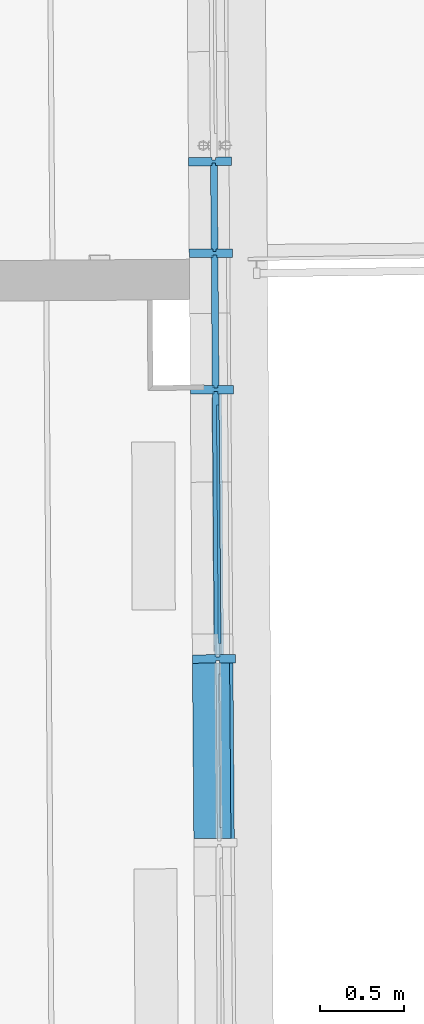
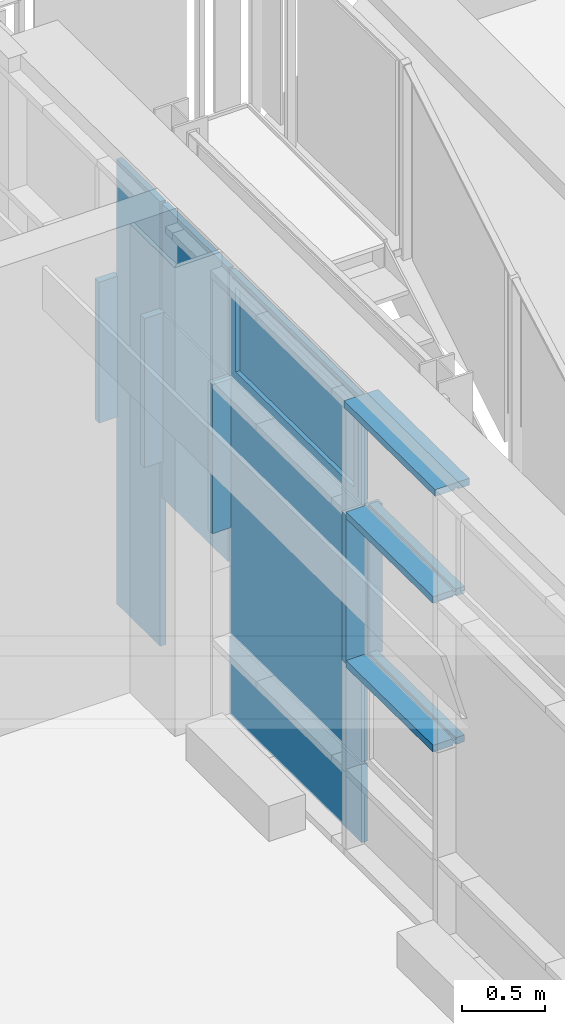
# One storey, part 105 of 158: 14 building element parts, 1 element without a shape of its own.
"""IFC2X3 building model written with IfcOpenShell, lengths in metres."""

from ifc_helpers import new_model, entity, si_unit, converted_unit, derived_unit, money_unit, direction, frame, origin_with_axes, place, context, subcontext, project, spatial, faceted_brep, material, type_object, element, aggregate, save


model = new_model("IFC2X3")

# Units and contexts
model_context = context("Model", 3, precision=1e-05, world=origin_with_axes(), true_north=direction((0.0, 1.0)))
body_context = subcontext(model_context, "Body", "Model", "MODEL_VIEW")
ifc_project = project(units=[si_unit("LENGTHUNIT", "METRE"), si_unit("AREAUNIT", "SQUARE_METRE"), si_unit("VOLUMEUNIT", "CUBIC_METRE"), converted_unit("PLANEANGLEUNIT", "DEGREE", entity("IfcPlaneAngleMeasure", 0.0174532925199), si_unit("PLANEANGLEUNIT", "RADIAN"), dimensions=[0, 0, 0, 0, 0, 0, 0]), money_unit("EUR"), converted_unit("TIMEUNIT", "Year", entity("IfcTimeMeasure", 31556926.0), si_unit("TIMEUNIT", "SECOND"), dimensions=[0, 0, 1, 0, 0, 0, 0]), si_unit("MASSUNIT", "GRAM", prefix="KILO"), si_unit("THERMODYNAMICTEMPERATUREUNIT", "DEGREE_CELSIUS"), si_unit("LUMINOUSINTENSITYUNIT", "LUMEN"), si_unit("ENERGYUNIT", "JOULE", prefix="MEGA"), derived_unit("THERMALCONDUCTANCEUNIT", [(si_unit("POWERUNIT", "WATT"), 1), (si_unit("LENGTHUNIT", "METRE"), -1), (si_unit("THERMODYNAMICTEMPERATUREUNIT", "KELVIN"), -1)]), derived_unit("SPECIFICHEATCAPACITYUNIT", [(si_unit("ENERGYUNIT", "JOULE"), 1), (si_unit("MASSUNIT", "GRAM", prefix="KILO"), -1), (si_unit("THERMODYNAMICTEMPERATUREUNIT", "KELVIN"), -1)]), derived_unit("MASSDENSITYUNIT", [(si_unit("MASSUNIT", "GRAM", prefix="KILO"), 1), (si_unit("VOLUMEUNIT", "CUBIC_METRE"), -1)])], contexts=[model_context])

# Site, building, storey
site_placement = place(None, origin_with_axes())
site = spatial("IfcSite", under=ifc_project, at=site_placement, Name="Gelände", CompositionType="ELEMENT")
building_placement = place(site_placement, origin_with_axes())
building = spatial("IfcBuilding", under=site, at=building_placement, Name="Gebäude", CompositionType="ELEMENT")
storey_placement = place(building_placement, origin_with_axes())
storey = spatial("IfcBuildingStorey", under=building, at=storey_placement, Name="ERDGESCHOSS", CompositionType="ELEMENT", Elevation=0.0)

# Proxy, building element parts
building_element_proxy_type = type_object("IfcBuildingElementProxyType", Name="Fassadentyp", PredefinedType="NOTDEFINED")
proxy_placement = place(storey_placement, frame((-15.5457352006, 40.9565245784, 1.34043905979), z_axis=(0.0, 0.0, 1.0), x_axis=(1.0, 0.0, 0.0)))
proxy = element("IfcBuildingElementProxy", 1, at=proxy_placement, inside=storey, type_object=building_element_proxy_type, Name="Fassade-002")
ifc_material_1 = material(Name="45_Glas, Normalglas")
building_element_part_1_placement = place(proxy_placement, origin_with_axes())
building_element_part_1 = element("IfcBuildingElementPart", 2, at=building_element_part_1_placement, material=ifc_material_1, Name="45_Glas, Normalglas", context=body_context, shape_type="Brep", body=[
    faceted_brep([(-0.014652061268, -0.687379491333, 0.609999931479), (0.0253467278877, -0.687068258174, 0.609999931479), (0.0242787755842, -0.549818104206, 0.609999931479), (-0.0157200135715, -0.550129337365, 0.609999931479), (-0.0146520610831, -0.687379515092, 0.0349999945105), (0.0253467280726, -0.687068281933, 0.0349999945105), (0.0242787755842, -0.549818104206, 0.0349999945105), (0.0172760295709, 0.350154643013, 0.0349999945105), (0.0130960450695, 0.887354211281, 0.0349999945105), (0.0130960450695, 0.887354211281, 0.609999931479), (0.0172760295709, 0.350154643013, 0.609999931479), (-0.0227227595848, 0.349843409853, 0.609999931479), (-0.0269027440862, 0.887042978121, 0.609999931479), (-0.0269027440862, 0.887042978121, 0.0349999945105), (-0.0227227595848, 0.349843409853, 0.0349999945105), (-0.0157200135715, -0.550129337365, 0.0349999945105)], [[[0, 1, 2, 3]], [[4, 5, 1, 0]], [[1, 5, 6, 7, 8, 9, 10, 2]], [[3, 2, 10, 11]], [[0, 3, 11, 12, 13, 14, 15, 4]], [[15, 6, 5, 4]], [[14, 7, 6, 15]], [[13, 8, 7, 14]], [[12, 9, 8, 13]], [[11, 10, 9, 12]]]),
])
building_element_part_2_placement = place(proxy_placement, origin_with_axes())
building_element_part_2 = element("IfcBuildingElementPart", 3, at=building_element_part_2_placement, material=ifc_material_1, Name="45_Glas, Normalglas", context=body_context, shape_type="Brep", body=[
    faceted_brep([(-0.0146520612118, -0.687379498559, 2.50999994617), (0.0253467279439, -0.6870682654, 2.50999994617), (0.0242787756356, -0.54981811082, 2.50999994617), (-0.0157200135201, -0.550129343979, 2.50999994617), (-0.0146520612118, -0.687379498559, 1.4231093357), (0.0253467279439, -0.6870682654, 1.4231093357), (0.0253467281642, -0.687068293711, 1.41999994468), (0.0253467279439, -0.6870682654, 0.629999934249), (0.0242787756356, -0.54981811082, 0.629999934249), (0.0172760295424, 0.350154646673, 0.629999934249), (0.0130960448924, 0.88735423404, 0.629999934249), (0.0130960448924, 0.88735423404, 1.13681093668), (0.0130960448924, 0.88735423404, 1.41999994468), (0.0130960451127, 0.887354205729, 2.50999994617), (0.0172760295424, 0.350154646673, 2.50999994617), (-0.0227227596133, 0.349843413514, 2.50999994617), (-0.026902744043, 0.88704297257, 2.50999994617), (-0.0269027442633, 0.887043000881, 1.41999994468), (-0.0269027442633, 0.887043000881, 1.13681093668), (-0.0269027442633, 0.887043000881, 0.629999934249), (-0.0227227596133, 0.349843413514, 0.629999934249), (-0.0157200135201, -0.550129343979, 0.629999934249), (-0.0146520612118, -0.687379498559, 0.629999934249), (-0.0146520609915, -0.68737952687, 1.41999994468)], [[[0, 1, 2, 3]], [[4, 5, 1, 0]], [[1, 5, 6, 7, 8, 9, 10, 11, 12, 13, 14, 2]], [[3, 2, 14, 15]], [[0, 3, 15, 16, 17, 18, 19, 20, 21, 22, 23, 4]], [[23, 6, 5, 4]], [[22, 7, 6, 23]], [[21, 8, 7, 22]], [[20, 9, 8, 21]], [[19, 10, 9, 20]], [[18, 11, 10, 19]], [[17, 12, 11, 18]], [[16, 13, 12, 17]], [[15, 14, 13, 16]]]),
])
building_element_part_3_placement = place(proxy_placement, origin_with_axes())
building_element_part_3 = element("IfcBuildingElementPart", 4, at=building_element_part_3_placement, material=ifc_material_1, Name="45_Glas, Normalglas", context=body_context, shape_type="Brep", body=[
    faceted_brep([(-0.0270583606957, 0.907042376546, 2.50999995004), (0.01294042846, 0.907353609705, 2.50999995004), (0.00949520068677, 1.35012435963, 2.50999995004), (-0.0305035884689, 1.34981312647, 2.50999995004), (-0.0270583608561, 0.907042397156, 1.41999994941), (0.0129404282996, 0.907353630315, 1.41999994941), (0.01294042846, 0.907353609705, 1.1468109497), (0.00949520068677, 1.35012435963, 1.1468109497), (0.00680440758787, 1.69593733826, 1.14681092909), (0.0068044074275, 1.69593735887, 1.41999994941), (0.00680440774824, 1.69593731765, 2.50999995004), (-0.0331943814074, 1.69562608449, 2.50999995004), (-0.0331943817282, 1.69562612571, 1.41999994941), (-0.0331943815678, 1.6956261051, 1.14681092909), (-0.0305035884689, 1.34981312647, 1.1468109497), (-0.0270583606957, 0.907042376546, 1.1468109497)], [[[0, 1, 2, 3]], [[4, 5, 1, 0]], [[1, 5, 6, 7, 8, 9, 10, 2]], [[3, 2, 10, 11]], [[0, 3, 11, 12, 13, 14, 15, 4]], [[15, 6, 5, 4]], [[14, 7, 6, 15]], [[13, 8, 7, 14]], [[12, 9, 8, 13]], [[11, 10, 9, 12]]]),
])
building_element_part_4_placement = place(proxy_placement, origin_with_axes())
building_element_part_4 = element("IfcBuildingElementPart", 5, at=building_element_part_4_placement, material=ifc_material_1, Name="45_Glas, Normalglas", context=body_context, shape_type="Brep", body=[
    faceted_brep([(-0.0333499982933, 1.71562551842, 3.31499986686), (0.00664879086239, 1.71593675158, 3.31499986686), (0.00257702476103, 2.23922840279, 3.31499986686), (-0.0374217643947, 2.23891716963, 3.31499986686), (-0.0333499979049, 1.71562546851, 2.51999993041), (0.0066487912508, 1.71593670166, 2.51999993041), (0.00664879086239, 1.71593675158, 1.4199999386), (0.00664879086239, 1.71593675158, 1.13681091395), (0.00664879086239, 1.71593675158, 0.619999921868), (0.00664879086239, 1.71593675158, 0.0350000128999), (0.00257702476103, 2.23922840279, 0.0350000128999), (0.00257702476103, 2.23922840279, 0.619999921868), (0.00257702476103, 2.23922840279, 1.4199999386), (0.00257702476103, 2.23922840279, 2.45991869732), (0.00257702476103, 2.23922840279, 2.51999993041), (-0.0374217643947, 2.23891716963, 2.51999993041), (-0.0374217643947, 2.23891716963, 2.45991869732), (-0.0374217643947, 2.23891716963, 1.4199999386), (-0.0374217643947, 2.23891716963, 0.619999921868), (-0.0374217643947, 2.23891716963, 0.0350000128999), (-0.0333499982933, 1.71562551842, 0.0350000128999), (-0.0333499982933, 1.71562551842, 0.619999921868), (-0.0333499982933, 1.71562551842, 1.13681091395), (-0.0333499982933, 1.71562551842, 1.4199999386)], [[[0, 1, 2, 3]], [[4, 5, 1, 0]], [[1, 5, 6, 7, 8, 9, 10, 11, 12, 13, 14, 2]], [[3, 2, 14, 15]], [[0, 3, 15, 16, 17, 18, 19, 20, 21, 22, 23, 4]], [[23, 6, 5, 4]], [[22, 7, 6, 23]], [[21, 8, 7, 22]], [[20, 9, 8, 21]], [[19, 10, 9, 20]], [[18, 11, 10, 19]], [[17, 12, 11, 18]], [[16, 13, 12, 17]], [[15, 14, 13, 16]]]),
])
ifc_material_2 = material(Name="53_Metall, Aluminium")
building_element_part_5_placement = place(proxy_placement, origin_with_axes())
building_element_part_5 = element("IfcBuildingElementPart", 6, at=building_element_part_5_placement, material=ifc_material_2, Name="53_Metall, Aluminium", context=body_context, shape_type="Brep", body=[
    faceted_brep([(0.0232124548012, 0.872432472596, 2.54499994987), (0.0282123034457, 0.87247137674, 2.54499994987), (0.0402295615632, -0.671952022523, 2.54499994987), (0.0352297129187, -0.671990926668, 2.54499994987), (0.0235625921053, 0.827433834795, 2.58999994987), (0.0285624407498, 0.82747273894, 2.58999994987), (0.0398794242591, -0.626953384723, 2.58999994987), (0.0348795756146, -0.626992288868, 2.58999994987)], [[[0, 1, 2, 3]], [[4, 5, 1, 0]], [[1, 5, 6, 2]], [[3, 2, 6, 7]], [[0, 3, 7, 4]], [[7, 6, 5, 4]]]),
    faceted_brep([(0.0352297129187, -0.671990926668, 2.54499994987), (0.0402295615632, -0.671952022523, 2.54499994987), (0.0402295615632, -0.671952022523, 3.29999987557), (0.0352297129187, -0.671990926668, 3.29999987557), (0.0348795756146, -0.626992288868, 2.58999994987), (0.0398794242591, -0.626953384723, 2.58999994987), (0.0398794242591, -0.626953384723, 3.25499987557), (0.0348795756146, -0.626992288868, 3.25499987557)], [[[0, 1, 2, 3]], [[4, 5, 1, 0]], [[1, 5, 6, 2]], [[3, 2, 6, 7]], [[0, 3, 7, 4]], [[7, 6, 5, 4]]]),
    faceted_brep([(0.0232124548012, 0.872432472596, 3.29999987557), (0.0282123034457, 0.87247137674, 3.29999987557), (0.0285624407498, 0.82747273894, 3.25499987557), (0.0235625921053, 0.827433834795, 3.25499987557), (0.0352297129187, -0.671990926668, 3.29999987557), (0.0402295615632, -0.671952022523, 3.29999987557), (0.0398794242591, -0.626953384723, 3.25499987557), (0.0348795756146, -0.626992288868, 3.25499987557)], [[[0, 1, 2, 3]], [[4, 5, 1, 0]], [[1, 5, 6, 2]], [[3, 2, 6, 7]], [[0, 3, 7, 4]], [[7, 6, 5, 4]]]),
    faceted_brep([(0.0232124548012, 0.872432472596, 2.54499994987), (0.0282123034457, 0.87247137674, 2.54499994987), (0.0285624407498, 0.82747273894, 2.58999994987), (0.0235625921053, 0.827433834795, 2.58999994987), (0.0232124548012, 0.872432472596, 3.29999987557), (0.0282123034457, 0.87247137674, 3.29999987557), (0.0285624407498, 0.82747273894, 3.25499987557), (0.0235625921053, 0.827433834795, 3.25499987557)], [[[0, 1, 2, 3]], [[4, 5, 1, 0]], [[1, 5, 6, 2]], [[3, 2, 6, 7]], [[0, 3, 7, 4]], [[7, 6, 5, 4]]]),
    faceted_brep([(-0.0267860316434, 0.872043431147, 2.54499994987), (0.0232124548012, 0.872432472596, 2.54499994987), (0.0352297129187, -0.671990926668, 2.54499994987), (-0.0147687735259, -0.672379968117, 2.54499994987), (-0.0266304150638, 0.852044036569, 2.56499994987), (0.0233680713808, 0.852433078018, 2.56499994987), (0.0350740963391, -0.65199153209, 2.56499994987), (-0.0149243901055, -0.652380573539, 2.56499994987)], [[[0, 1, 2, 3]], [[4, 5, 1, 0]], [[1, 5, 6, 2]], [[3, 2, 6, 7]], [[0, 3, 7, 4]], [[7, 6, 5, 4]]]),
    faceted_brep([(-0.0147687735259, -0.672379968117, 2.54499994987), (0.0352297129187, -0.671990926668, 2.54499994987), (0.0352297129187, -0.671990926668, 3.29999987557), (-0.0147687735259, -0.672379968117, 3.29999987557), (-0.0149243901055, -0.652380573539, 2.56499994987), (0.0350740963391, -0.65199153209, 2.56499994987), (0.0350740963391, -0.65199153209, 3.27999987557), (-0.0149243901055, -0.652380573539, 3.27999987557)], [[[0, 1, 2, 3]], [[4, 5, 1, 0]], [[1, 5, 6, 2]], [[3, 2, 6, 7]], [[0, 3, 7, 4]], [[7, 6, 5, 4]]]),
    faceted_brep([(-0.0267860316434, 0.872043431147, 3.29999987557), (0.0232124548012, 0.872432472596, 3.29999987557), (0.0233680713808, 0.852433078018, 3.27999987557), (-0.0266304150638, 0.852044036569, 3.27999987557), (-0.0147687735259, -0.672379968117, 3.29999987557), (0.0352297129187, -0.671990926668, 3.29999987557), (0.0350740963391, -0.65199153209, 3.27999987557), (-0.0149243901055, -0.652380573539, 3.27999987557)], [[[0, 1, 2, 3]], [[4, 5, 1, 0]], [[1, 5, 6, 2]], [[3, 2, 6, 7]], [[0, 3, 7, 4]], [[7, 6, 5, 4]]]),
    faceted_brep([(-0.0267860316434, 0.872043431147, 2.54499994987), (0.0232124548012, 0.872432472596, 2.54499994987), (0.0233680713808, 0.852433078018, 2.56499994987), (-0.0266304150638, 0.852044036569, 2.56499994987), (-0.0267860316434, 0.872043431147, 3.29999987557), (0.0232124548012, 0.872432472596, 3.29999987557), (0.0233680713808, 0.852433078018, 3.27999987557), (-0.0266304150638, 0.852044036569, 3.27999987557)], [[[0, 1, 2, 3]], [[4, 5, 1, 0]], [[1, 5, 6, 2]], [[3, 2, 6, 7]], [[0, 3, 7, 4]], [[7, 6, 5, 4]]]),
    faceted_brep([(-0.0269027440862, 0.887042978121, 2.52999994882), (0.0130960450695, 0.887354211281, 2.52999994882), (0.0253467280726, -0.687068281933, 2.52999994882), (-0.0146520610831, -0.687379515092, 2.52999994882), (-0.0267860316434, 0.872043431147, 2.54499994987), (0.0132127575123, 0.872354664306, 2.54499994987), (0.0252300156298, -0.672068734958, 2.54499994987), (-0.0147687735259, -0.672379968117, 2.54499994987)], [[[0, 1, 2, 3]], [[4, 5, 1, 0]], [[1, 5, 6, 2]], [[3, 2, 6, 7]], [[0, 3, 7, 4]], [[7, 6, 5, 4]]]),
    faceted_brep([(-0.0146520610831, -0.687379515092, 2.52999994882), (0.0253467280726, -0.687068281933, 2.52999994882), (0.0253467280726, -0.687068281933, 3.31499987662), (-0.0146520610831, -0.687379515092, 3.31499987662), (-0.0147687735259, -0.672379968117, 2.54499994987), (0.0252300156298, -0.672068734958, 2.54499994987), (0.0252300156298, -0.672068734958, 3.29999987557), (-0.0147687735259, -0.672379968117, 3.29999987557)], [[[0, 1, 2, 3]], [[4, 5, 1, 0]], [[1, 5, 6, 2]], [[3, 2, 6, 7]], [[0, 3, 7, 4]], [[7, 6, 5, 4]]]),
    faceted_brep([(-0.0146520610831, -0.687379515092, 3.31499987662), (0.0253467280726, -0.687068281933, 3.31499987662), (0.0130960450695, 0.887354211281, 3.31499987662), (-0.0269027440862, 0.887042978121, 3.31499987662), (-0.0147687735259, -0.672379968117, 3.29999987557), (0.0252300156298, -0.672068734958, 3.29999987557), (0.0132127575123, 0.872354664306, 3.29999987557), (-0.0267860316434, 0.872043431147, 3.29999987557)], [[[0, 1, 2, 3]], [[4, 5, 1, 0]], [[1, 5, 6, 2]], [[3, 2, 6, 7]], [[0, 3, 7, 4]], [[7, 6, 5, 4]]]),
    faceted_brep([(-0.0269027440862, 0.887042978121, 3.31499987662), (0.0130960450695, 0.887354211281, 3.31499987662), (0.0130960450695, 0.887354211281, 2.52999994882), (-0.0269027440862, 0.887042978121, 2.52999994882), (-0.0267860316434, 0.872043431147, 3.29999987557), (0.0132127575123, 0.872354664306, 3.29999987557), (0.0132127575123, 0.872354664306, 2.54499994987), (-0.0267860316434, 0.872043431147, 2.54499994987)], [[[0, 1, 2, 3]], [[4, 5, 1, 0]], [[1, 5, 6, 2]], [[3, 2, 6, 7]], [[0, 3, 7, 4]], [[7, 6, 5, 4]]]),
    faceted_brep([(0.0237182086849, 0.807434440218, 2.60999994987), (0.0237182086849, 0.807434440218, 3.23499987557), (-0.0312801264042, 0.807006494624, 3.23499987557), (-0.0312801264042, 0.807006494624, 2.60999994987), (0.0233680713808, 0.852433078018, 2.56499994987), (0.0233680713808, 0.852433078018, 3.27999987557), (-0.0316302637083, 0.852005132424, 3.27999987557), (-0.0316302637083, 0.852005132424, 2.56499994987)], [[[0, 1, 2, 3]], [[0, 4, 5, 1]], [[1, 5, 6, 2]], [[3, 2, 6, 7]], [[4, 0, 3, 7]], [[5, 4, 7, 6]]]),
    faceted_brep([(0.0350740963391, -0.65199153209, 2.56499994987), (0.0350740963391, -0.65199153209, 3.27999987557), (-0.01992423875, -0.652419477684, 3.27999987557), (-0.01992423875, -0.652419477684, 2.56499994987), (0.034723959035, -0.60699289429, 2.60999994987), (0.034723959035, -0.60699289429, 3.23499987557), (-0.020274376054, -0.607420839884, 3.23499987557), (-0.020274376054, -0.607420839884, 2.60999994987)], [[[0, 1, 2, 3]], [[0, 4, 5, 1]], [[1, 5, 6, 2]], [[3, 2, 6, 7]], [[4, 0, 3, 7]], [[5, 4, 7, 6]]]),
    faceted_brep([(0.0350740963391, -0.65199153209, 2.56499994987), (0.034723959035, -0.60699289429, 2.60999994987), (-0.020274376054, -0.607420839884, 2.60999994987), (-0.01992423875, -0.652419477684, 2.56499994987), (0.0233680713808, 0.852433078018, 2.56499994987), (0.0237182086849, 0.807434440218, 2.60999994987), (-0.0312801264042, 0.807006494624, 2.60999994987), (-0.0316302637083, 0.852005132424, 2.56499994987)], [[[0, 1, 2, 3]], [[0, 4, 5, 1]], [[1, 5, 6, 2]], [[3, 2, 6, 7]], [[4, 0, 3, 7]], [[5, 4, 7, 6]]]),
    faceted_brep([(0.0233680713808, 0.852433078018, 3.27999987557), (0.0237182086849, 0.807434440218, 3.23499987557), (-0.0312801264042, 0.807006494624, 3.23499987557), (-0.0316302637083, 0.852005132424, 3.27999987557), (0.0350740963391, -0.65199153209, 3.27999987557), (0.034723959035, -0.60699289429, 3.23499987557), (-0.020274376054, -0.607420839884, 3.23499987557), (-0.01992423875, -0.652419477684, 3.27999987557)], [[[0, 1, 2, 3]], [[0, 4, 5, 1]], [[1, 5, 6, 2]], [[3, 2, 6, 7]], [[4, 0, 3, 7]], [[5, 4, 7, 6]]]),
])
building_element_part_6_placement = place(proxy_placement, origin_with_axes())
building_element_part_6 = element("IfcBuildingElementPart", 7, at=building_element_part_6_placement, material=ifc_material_1, Name="45_Glas, Normalglas", context=body_context, shape_type="Brep", body=[
    faceted_brep([(0.013718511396, 0.807356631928, 2.60999994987), (0.0247242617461, -0.60707070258, 2.60999994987), (0.00872474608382, -0.607195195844, 2.60999994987), (-0.00228100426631, 0.807232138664, 2.60999994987), (0.013718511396, 0.807356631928, 3.23499987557), (0.0247242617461, -0.60707070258, 3.23499987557), (0.00872474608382, -0.607195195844, 3.23499987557), (-0.00228100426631, 0.807232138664, 3.23499987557)], [[[0, 1, 2, 3]], [[0, 4, 5, 1]], [[1, 5, 6, 2]], [[3, 2, 6, 7]], [[4, 0, 3, 7]], [[5, 4, 7, 6]]]),
])
building_element_part_7_placement = place(proxy_placement, origin_with_axes())
building_element_part_7 = element("IfcBuildingElementPart", 8, at=building_element_part_7_placement, material=ifc_material_1, Name="45_Glas, Normalglas", context=body_context, shape_type="Brep", body=[
    faceted_brep([(-0.0270583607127, 0.907042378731, 3.31499988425), (0.012940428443, 0.90735361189, 3.31499988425), (0.00949520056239, 1.35012437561, 3.31499988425), (-0.0305035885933, 1.34981314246, 3.31499988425), (-0.0270583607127, 0.907042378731, 2.52999994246), (0.012940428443, 0.90735361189, 2.52999994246), (0.00949520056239, 1.35012437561, 2.52999994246), (0.00680440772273, 1.69593732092, 2.52999994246), (0.00680440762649, 1.69593733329, 3.31499988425), (-0.0331943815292, 1.69562610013, 3.31499988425), (-0.033194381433, 1.69562608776, 2.52999994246), (-0.0305035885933, 1.34981314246, 2.52999994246)], [[[0, 1, 2, 3]], [[4, 5, 1, 0]], [[1, 5, 6, 7, 8, 2]], [[3, 2, 8, 9]], [[0, 3, 9, 10, 11, 4]], [[11, 6, 5, 4]], [[10, 7, 6, 11]], [[9, 8, 7, 10]]]),
])
building_element_part_8_placement = place(proxy_placement, origin_with_axes())
building_element_part_8 = element("IfcBuildingElementPart", 9, at=building_element_part_8_placement, material=ifc_material_2, Name="53_Metall, Aluminium", context=body_context, shape_type="Brep", body=[
    faceted_brep([(-0.016903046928, 0.887120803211, 2.51999994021), (0.00309634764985, 0.88727641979, 2.51999994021), (0.00321306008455, 0.872276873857, 2.51999994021), (0.0982101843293, 0.87301605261, 2.51999994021), (0.0978211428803, 0.923014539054, 2.51999994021), (0.00282401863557, 0.922275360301, 2.51999994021), (0.00294073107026, 0.907275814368, 2.51999994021), (-0.0170586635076, 0.907120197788, 2.51999994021), (-0.0171753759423, 0.922119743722, 2.51999994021), (-0.157171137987, 0.921030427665, 2.51999994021), (-0.156782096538, 0.87103194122, 2.51999994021), (-0.0167863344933, 0.872121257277, 2.51999994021), (-0.016903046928, 0.887120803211, 1.41999994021), (0.00309634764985, 0.88727641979, 1.41999994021), (0.00321306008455, 0.872276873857, 1.41999994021), (0.0982101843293, 0.87301605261, 1.41999994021), (0.0978211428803, 0.923014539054, 1.41999994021), (0.00282401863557, 0.922275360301, 1.41999994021), (0.00294073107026, 0.907275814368, 1.41999994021), (-0.0170586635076, 0.907120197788, 1.41999994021), (-0.0171753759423, 0.922119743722, 1.41999994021), (-0.157171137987, 0.921030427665, 1.41999994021), (-0.156782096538, 0.87103194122, 1.41999994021), (-0.0167863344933, 0.872121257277, 1.41999994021)], [[[0, 1, 2, 3, 4, 5, 6, 7, 8, 9, 10, 11]], [[0, 12, 13, 1]], [[1, 13, 14, 2]], [[14, 15, 3, 2]], [[3, 15, 16, 4]], [[17, 5, 4, 16]], [[5, 17, 18, 6]], [[7, 6, 18, 19]], [[8, 7, 19, 20]], [[8, 20, 21, 9]], [[9, 21, 22, 10]], [[11, 10, 22, 23]], [[11, 23, 12, 0]], [[13, 12, 23, 22, 21, 20, 19, 18, 17, 16, 15, 14]]]),
])
building_element_part_9_placement = place(proxy_placement, origin_with_axes())
building_element_part_9 = element("IfcBuildingElementPart", 10, at=building_element_part_9_placement, material=ifc_material_2, Name="53_Metall, Aluminium", context=body_context, shape_type="Brep", body=[
    faceted_brep([(-0.0274220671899, 2.23899498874, 2.45991868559), (-0.00742267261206, 2.23915060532, 2.45991868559), (-0.00730596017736, 2.22415105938, 2.45991868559), (0.0876911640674, 2.22489023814, 2.45991868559), (0.0873021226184, 2.27488872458, 2.45991868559), (-0.00769500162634, 2.27414954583, 2.45991868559), (-0.00757828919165, 2.25914999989, 2.45991868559), (-0.0275776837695, 2.25899438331, 2.45991868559), (-0.0276943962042, 2.27399392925, 2.45991868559), (-0.167690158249, 2.27290461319, 2.45991868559), (-0.1673011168, 2.22290612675, 2.45991868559), (-0.0273053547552, 2.2239954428, 2.45991868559), (-0.0274220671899, 2.23899498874, 1.41999993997), (-0.00742267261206, 2.23915060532, 1.41999993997), (-0.00730596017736, 2.22415105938, 1.41999993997), (0.0876911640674, 2.22489023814, 1.41999993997), (0.0873021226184, 2.27488872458, 1.41999993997), (-0.00769500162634, 2.27414954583, 1.41999993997), (-0.00757828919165, 2.25914999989, 1.41999993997), (-0.0275776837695, 2.25899438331, 1.41999993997), (-0.0276943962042, 2.27399392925, 1.41999993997), (-0.167690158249, 2.27290461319, 1.41999993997), (-0.1673011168, 2.22290612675, 1.41999993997), (-0.0273053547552, 2.2239954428, 1.41999993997)], [[[0, 1, 2, 3, 4, 5, 6, 7, 8, 9, 10, 11]], [[0, 12, 13, 1]], [[1, 13, 14, 2]], [[14, 15, 3, 2]], [[3, 15, 16, 4]], [[17, 5, 4, 16]], [[5, 17, 18, 6]], [[7, 6, 18, 19]], [[8, 7, 19, 20]], [[8, 20, 21, 9]], [[9, 21, 22, 10]], [[11, 10, 22, 23]], [[11, 23, 12, 0]], [[13, 12, 23, 22, 21, 20, 19, 18, 17, 16, 15, 14]]]),
])
building_element_part_10_placement = place(proxy_placement, origin_with_axes())
building_element_part_10 = element("IfcBuildingElementPart", 11, at=building_element_part_10_placement, material=ifc_material_2, Name="53_Metall, Aluminium", context=body_context, shape_type="Brep", body=[
    faceted_brep([(-0.00449674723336, -0.707301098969, 2.51999993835), (0.0155026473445, -0.707145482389, 2.51999993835), (0.0156193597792, -0.722145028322, 2.51999993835), (0.110616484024, -0.721405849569, 2.51999993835), (0.110227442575, -0.671407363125, 2.51999993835), (0.0152303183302, -0.672146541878, 2.51999993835), (0.0153470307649, -0.687146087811, 2.51999993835), (-0.00465236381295, -0.687301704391, 2.51999993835), (-0.00476907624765, -0.672302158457, 2.51999993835), (-0.144764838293, -0.673391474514, 2.51999993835), (-0.144375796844, -0.723389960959, 2.51999993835), (-0.00438003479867, -0.722300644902, 2.51999993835), (-0.00449674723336, -0.707301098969, 1.42310934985), (0.0155026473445, -0.707145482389, 1.42310934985), (0.0156193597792, -0.722145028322, 1.42310934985), (0.110616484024, -0.721405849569, 1.42310934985), (0.110227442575, -0.671407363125, 1.42310934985), (0.0152303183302, -0.672146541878, 1.42310934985), (0.0153470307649, -0.687146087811, 1.42310934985), (-0.00465236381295, -0.687301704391, 1.42310934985), (-0.00476907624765, -0.672302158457, 1.42310934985), (-0.144764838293, -0.673391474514, 1.42310934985), (-0.144375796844, -0.723389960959, 1.42310934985), (-0.00438003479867, -0.722300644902, 1.42310934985)], [[[0, 1, 2, 3, 4, 5, 6, 7, 8, 9, 10, 11]], [[0, 12, 13, 1]], [[1, 13, 14, 2]], [[14, 15, 3, 2]], [[3, 15, 16, 4]], [[17, 5, 4, 16]], [[5, 17, 18, 6]], [[7, 6, 18, 19]], [[8, 7, 19, 20]], [[8, 20, 21, 9]], [[9, 21, 22, 10]], [[11, 10, 22, 23]], [[11, 23, 12, 0]], [[13, 12, 23, 22, 21, 20, 19, 18, 17, 16, 15, 14]]]),
])
building_element_part_11_placement = place(proxy_placement, origin_with_axes())
building_element_part_11 = element("IfcBuildingElementPart", 12, at=building_element_part_11_placement, material=ifc_material_2, Name="53_Metall, Aluminium", context=body_context, shape_type="Brep", body=[
    faceted_brep([(0.00389639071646, -1.78596301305, 3.31499987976), (0.0238957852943, -1.78580739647, 3.31499987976), (0.0238957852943, -1.78580739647, 3.29999987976), (0.103893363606, -1.78518493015, 3.29999987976), (0.103893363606, -1.78518493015, 3.34999987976), (-0.136099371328, -1.7870523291, 3.34999987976), (-0.136099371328, -1.7870523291, 3.29999987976), (0.00389639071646, -1.78596301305, 3.29999987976), (-0.00457455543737, -0.697301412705, 3.31499987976), (0.0154248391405, -0.697145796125, 3.31499987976), (0.0154248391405, -0.697145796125, 3.29999987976), (0.0954224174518, -0.696523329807, 3.29999987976), (0.0954224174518, -0.696523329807, 3.34999987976), (-0.144570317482, -0.698390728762, 3.34999987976), (-0.144570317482, -0.698390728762, 3.29999987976), (-0.00457455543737, -0.697301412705, 3.29999987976)], [[[0, 1, 2, 3, 4, 5, 6, 7]], [[1, 0, 8, 9]], [[10, 2, 1, 9]], [[2, 10, 11, 3]], [[12, 4, 3, 11]], [[13, 5, 4, 12]], [[14, 6, 5, 13]], [[15, 7, 6, 14]], [[0, 7, 15, 8]], [[8, 15, 14, 13, 12, 11, 10, 9]]]),
])
building_element_part_12_placement = place(proxy_placement, origin_with_axes())
building_element_part_12 = element("IfcBuildingElementPart", 13, at=building_element_part_12_placement, material=ifc_material_2, Name="53_Metall, Aluminium", context=body_context, shape_type="Brep", body=[
    faceted_brep([(0.00370186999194, -1.76096376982, 2.50999994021), (0.0237012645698, -1.76080815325, 2.50999994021), (0.0237012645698, -1.76080815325, 2.49499994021), (0.0836994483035, -1.76034130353, 2.49499994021), (0.0836994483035, -1.76034130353, 2.54499994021), (0.0237012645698, -1.76080815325, 2.54499994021), (0.0237012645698, -1.76080815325, 2.52999994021), (0.00370186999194, -1.76096376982, 2.52999994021), (0.00370186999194, -1.76096376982, 2.54499994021), (-0.136293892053, -1.76205308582, 2.54499994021), (-0.136293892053, -1.76205308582, 2.49499994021), (0.00370186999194, -1.76096376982, 2.49499994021), (-0.00438003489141, -0.722300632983, 2.50999994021), (0.0156193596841, -0.7221450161, 2.50999994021), (0.0156193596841, -0.7221450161, 2.49499994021), (0.0756175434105, -0.721678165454, 2.49499994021), (0.0756175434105, -0.721678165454, 2.54499994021), (0.0156193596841, -0.7221450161, 2.54499994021), (0.0156193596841, -0.7221450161, 2.52999994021), (-0.00438003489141, -0.722300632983, 2.52999994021), (-0.00438003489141, -0.722300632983, 2.54499994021), (-0.14437579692, -0.723389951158, 2.54499994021), (-0.14437579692, -0.723389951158, 2.49499994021), (-0.00438003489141, -0.722300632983, 2.49499994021)], [[[0, 1, 2, 3, 4, 5, 6, 7, 8, 9, 10, 11]], [[0, 12, 13, 1]], [[1, 13, 14, 2]], [[14, 15, 3, 2]], [[4, 3, 15, 16]], [[17, 5, 4, 16]], [[5, 17, 18, 6]], [[7, 6, 18, 19]], [[8, 7, 19, 20]], [[8, 20, 21, 9]], [[10, 9, 21, 22]], [[11, 10, 22, 23]], [[11, 23, 12, 0]], [[13, 12, 23, 22, 21, 20, 19, 18, 17, 16, 15, 14]]]),
])
building_element_part_13_placement = place(proxy_placement, origin_with_axes())
building_element_part_13 = element("IfcBuildingElementPart", 14, at=building_element_part_13_placement, material=ifc_material_2, Name="53_Metall, Aluminium", context=body_context, shape_type="Brep", body=[
    faceted_brep([(-0.0231946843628, 1.69570392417, 2.51999994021), (-0.00319528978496, 1.69585954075, 2.51999994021), (-0.00307857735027, 1.68085999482, 2.51999994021), (0.0919185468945, 1.68159917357, 2.51999994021), (0.0915295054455, 1.73159766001, 2.51999994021), (-0.00346761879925, 1.73085848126, 2.51999994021), (-0.00335090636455, 1.71585893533, 2.51999994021), (-0.0233503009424, 1.71570331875, 2.51999994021), (-0.0234670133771, 1.73070286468, 2.51999994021), (-0.163462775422, 1.72961354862, 2.51999994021), (-0.163073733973, 1.67961506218, 2.51999994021), (-0.0230779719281, 1.68070437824, 2.51999994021), (-0.0231946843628, 1.69570392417, 1.41999994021), (-0.00319528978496, 1.69585954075, 1.41999994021), (-0.00307857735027, 1.68085999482, 1.41999994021), (0.0919185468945, 1.68159917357, 1.41999994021), (0.0915295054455, 1.73159766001, 1.41999994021), (-0.00346761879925, 1.73085848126, 1.41999994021), (-0.00335090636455, 1.71585893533, 1.41999994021), (-0.0233503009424, 1.71570331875, 1.41999994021), (-0.0234670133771, 1.73070286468, 1.41999994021), (-0.163462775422, 1.72961354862, 1.41999994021), (-0.163073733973, 1.67961506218, 1.41999994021), (-0.0230779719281, 1.68070437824, 1.41999994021)], [[[0, 1, 2, 3, 4, 5, 6, 7, 8, 9, 10, 11]], [[0, 12, 13, 1]], [[1, 13, 14, 2]], [[14, 15, 3, 2]], [[3, 15, 16, 4]], [[17, 5, 4, 16]], [[5, 17, 18, 6]], [[7, 6, 18, 19]], [[8, 7, 19, 20]], [[8, 20, 21, 9]], [[9, 21, 22, 10]], [[11, 10, 22, 23]], [[11, 23, 12, 0]], [[13, 12, 23, 22, 21, 20, 19, 18, 17, 16, 15, 14]]]),
])
building_element_part_14_placement = place(proxy_placement, origin_with_axes())
building_element_part_14 = element("IfcBuildingElementPart", 15, at=building_element_part_14_placement, material=ifc_material_2, Name="53_Metall, Aluminium", context=body_context, shape_type="Brep", body=[
    faceted_brep([(0.00370187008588, -1.76096378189, 1.41310934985), (0.0237012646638, -1.76080816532, 1.41310934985), (0.0237012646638, -1.76080816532, 1.39810934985), (0.0836994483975, -1.7603413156, 1.39810934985), (0.0836994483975, -1.7603413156, 1.44810934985), (0.0237012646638, -1.76080816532, 1.44810934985), (0.0237012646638, -1.76080816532, 1.43310934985), (0.00370187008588, -1.76096378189, 1.43310934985), (0.00370187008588, -1.76096378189, 1.44810934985), (-0.136293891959, -1.7620530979, 1.44810934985), (-0.136293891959, -1.7620530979, 1.39810934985), (0.00370187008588, -1.76096378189, 1.39810934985), (-0.00438003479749, -0.722300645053, 1.41310934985), (0.015619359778, -0.722145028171, 1.41310934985), (0.015619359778, -0.722145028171, 1.39810934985), (0.0756175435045, -0.721678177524, 1.39810934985), (0.0756175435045, -0.721678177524, 1.44810934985), (0.015619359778, -0.722145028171, 1.44810934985), (0.015619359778, -0.722145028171, 1.43310934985), (-0.00438003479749, -0.722300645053, 1.43310934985), (-0.00438003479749, -0.722300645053, 1.44810934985), (-0.144375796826, -0.723389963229, 1.44810934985), (-0.144375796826, -0.723389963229, 1.39810934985), (-0.00438003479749, -0.722300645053, 1.39810934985)], [[[0, 1, 2, 3, 4, 5, 6, 7, 8, 9, 10, 11]], [[0, 12, 13, 1]], [[1, 13, 14, 2]], [[14, 15, 3, 2]], [[4, 3, 15, 16]], [[17, 5, 4, 16]], [[5, 17, 18, 6]], [[7, 6, 18, 19]], [[8, 7, 19, 20]], [[8, 20, 21, 9]], [[10, 9, 21, 22]], [[11, 10, 22, 23]], [[11, 23, 12, 0]], [[13, 12, 23, 22, 21, 20, 19, 18, 17, 16, 15, 14]]]),
])
aggregate(proxy, [building_element_part_1, building_element_part_2, building_element_part_3, building_element_part_4, building_element_part_5, building_element_part_6, building_element_part_7, building_element_part_8, building_element_part_9, building_element_part_10, building_element_part_11, building_element_part_12, building_element_part_13, building_element_part_14])

save(model, "model.ifc")
